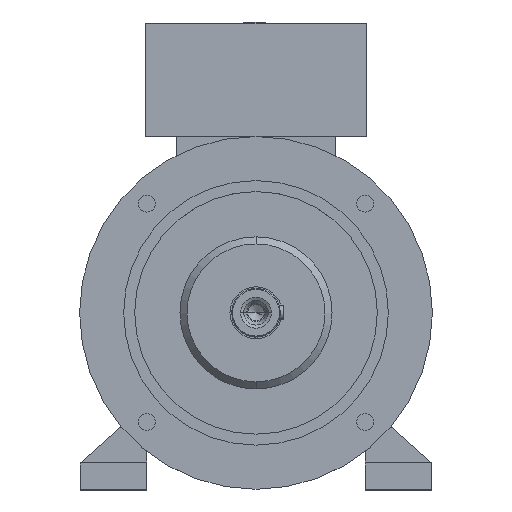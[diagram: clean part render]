
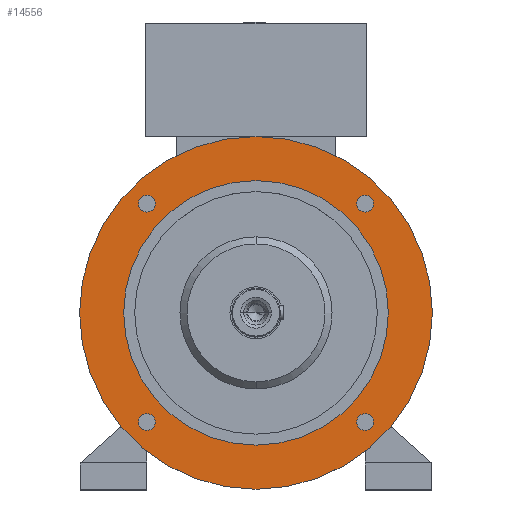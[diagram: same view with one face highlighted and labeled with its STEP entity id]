
A CAD part, top view. The second image highlights one B-rep face of the part: STEP entity #14556.
In plain terms, the highlighted planar face has unit normal (0, 0, 1).
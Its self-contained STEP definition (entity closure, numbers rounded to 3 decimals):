
#336 = DIRECTION ( 'NONE',  ( -1., 0., 0. ) ) ;
#720 = DIRECTION ( 'NONE',  ( 0., 0., -1. ) ) ;
#958 = CIRCLE ( 'NONE', #24208, 9.5 ) ;
#1006 = DIRECTION ( 'NONE',  ( -1., 0., 0. ) ) ;
#1097 = DIRECTION ( 'NONE',  ( 0., 0., -1. ) ) ;
#1434 = EDGE_CURVE ( 'NONE', #15455, #3084, #10281, .T. ) ;
#1455 = CARTESIAN_POINT ( 'NONE',  ( 133.244, 123.744, 285.5 ) ) ;
#1549 = DIRECTION ( 'NONE',  ( 1., 0., 0. ) ) ;
#2499 = EDGE_CURVE ( 'NONE', #3084, #15455, #8273, .T. ) ;
#3010 = CARTESIAN_POINT ( 'NONE',  ( 123.744, 123.744, 285.5 ) ) ;
#3084 = VERTEX_POINT ( 'NONE', #20287 ) ;
#3183 = EDGE_CURVE ( 'NONE', #4189, #18653, #20724, .T. ) ;
#3204 = CIRCLE ( 'NONE', #6338, 9.5 ) ;
#3250 = FACE_OUTER_BOUND ( 'NONE', #13264, .T. ) ;
#3396 = DIRECTION ( 'NONE',  ( 0., 0., -1. ) ) ;
#3454 = AXIS2_PLACEMENT_3D ( 'NONE', #7744, #25996, #26088 ) ;
#3564 = FACE_BOUND ( 'NONE', #20663, .T. ) ;
#3735 = EDGE_CURVE ( 'NONE', #9845, #18237, #958, .T. ) ;
#3979 = ORIENTED_EDGE ( 'NONE', *, *, #5904, .T. ) ;
#4189 = VERTEX_POINT ( 'NONE', #1455 ) ;
#4240 = ORIENTED_EDGE ( 'NONE', *, *, #19979, .T. ) ;
#4350 = CARTESIAN_POINT ( 'NONE',  ( -150., 0., 285.5 ) ) ;
#4654 = CIRCLE ( 'NONE', #25956, 150. ) ;
#4704 = DIRECTION ( 'NONE',  ( 1., 0., 0. ) ) ;
#4707 = DIRECTION ( 'NONE',  ( -1., 0., 0. ) ) ;
#4760 = DIRECTION ( 'NONE',  ( 1., 0., 0. ) ) ;
#5115 = DIRECTION ( 'NONE',  ( -1., 0., 0. ) ) ;
#5391 = ORIENTED_EDGE ( 'NONE', *, *, #6276, .T. ) ;
#5403 = ORIENTED_EDGE ( 'NONE', *, *, #14896, .T. ) ;
#5904 = EDGE_CURVE ( 'NONE', #20744, #16319, #4654, .T. ) ;
#6160 = CARTESIAN_POINT ( 'NONE',  ( -123.744, 123.744, 285.5 ) ) ;
#6276 = EDGE_CURVE ( 'NONE', #18653, #4189, #23207, .T. ) ;
#6338 = AXIS2_PLACEMENT_3D ( 'NONE', #20384, #18238, #16373 ) ;
#6404 = CARTESIAN_POINT ( 'NONE',  ( 114.244, -123.744, 285.5 ) ) ;
#6496 = CARTESIAN_POINT ( 'NONE',  ( 0., 0., 285.5 ) ) ;
#7278 = CIRCLE ( 'NONE', #14894, 9.5 ) ;
#7379 = CARTESIAN_POINT ( 'NONE',  ( 0., 0., 285.5 ) ) ;
#7744 = CARTESIAN_POINT ( 'NONE',  ( 0., 200., 285.5 ) ) ;
#7813 = ORIENTED_EDGE ( 'NONE', *, *, #3735, .T. ) ;
#7983 = AXIS2_PLACEMENT_3D ( 'NONE', #3010, #12987, #19224 ) ;
#7990 = FACE_BOUND ( 'NONE', #13140, .T. ) ;
#8273 = CIRCLE ( 'NONE', #17562, 200. ) ;
#8820 = CARTESIAN_POINT ( 'NONE',  ( 200., 0., 285.5 ) ) ;
#9009 = AXIS2_PLACEMENT_3D ( 'NONE', #25233, #13048, #14918 ) ;
#9041 = ORIENTED_EDGE ( 'NONE', *, *, #16050, .T. ) ;
#9072 = ORIENTED_EDGE ( 'NONE', *, *, #9926, .T. ) ;
#9357 = PLANE ( 'NONE',  #3454 ) ;
#9845 = VERTEX_POINT ( 'NONE', #26004 ) ;
#9926 = EDGE_CURVE ( 'NONE', #10684, #10480, #14466, .T. ) ;
#10065 = EDGE_LOOP ( 'NONE', ( #16254, #9041 ) ) ;
#10281 = CIRCLE ( 'NONE', #16500, 200. ) ;
#10480 = VERTEX_POINT ( 'NONE', #6404 ) ;
#10684 = VERTEX_POINT ( 'NONE', #22761 ) ;
#11132 = ORIENTED_EDGE ( 'NONE', *, *, #2499, .T. ) ;
#11179 = ORIENTED_EDGE ( 'NONE', *, *, #21756, .T. ) ;
#11184 = CARTESIAN_POINT ( 'NONE',  ( 150., 0., 285.5 ) ) ;
#11253 = ORIENTED_EDGE ( 'NONE', *, *, #1434, .T. ) ;
#11774 = DIRECTION ( 'NONE',  ( 0., 0., -1. ) ) ;
#12135 = CIRCLE ( 'NONE', #22715, 150. ) ;
#12987 = DIRECTION ( 'NONE',  ( 0., 0., -1. ) ) ;
#13048 = DIRECTION ( 'NONE',  ( 0., 0., -1. ) ) ;
#13060 = DIRECTION ( 'NONE',  ( 0., 0., -1. ) ) ;
#13140 = EDGE_LOOP ( 'NONE', ( #11179, #7813 ) ) ;
#13192 = CARTESIAN_POINT ( 'NONE',  ( 0., 0., 285.5 ) ) ;
#13264 = EDGE_LOOP ( 'NONE', ( #11132, #11253 ) ) ;
#14163 = CIRCLE ( 'NONE', #9009, 9.5 ) ;
#14380 = FACE_BOUND ( 'NONE', #19676, .T. ) ;
#14466 = CIRCLE ( 'NONE', #20096, 9.5 ) ;
#14556 = ADVANCED_FACE ( 'NONE', ( #3250, #3564, #25183, #14380, #7990, #22330 ), #9357, .T. ) ;
#14894 = AXIS2_PLACEMENT_3D ( 'NONE', #25809, #11774, #1549 ) ;
#14896 = EDGE_CURVE ( 'NONE', #16319, #20744, #12135, .T. ) ;
#14918 = DIRECTION ( 'NONE',  ( 1., 0., 0. ) ) ;
#15455 = VERTEX_POINT ( 'NONE', #8820 ) ;
#15496 = CARTESIAN_POINT ( 'NONE',  ( -123.744, 123.744, 285.5 ) ) ;
#16050 = EDGE_CURVE ( 'NONE', #17326, #22408, #7278, .T. ) ;
#16129 = DIRECTION ( 'NONE',  ( 0., 0., -1. ) ) ;
#16254 = ORIENTED_EDGE ( 'NONE', *, *, #18104, .T. ) ;
#16319 = VERTEX_POINT ( 'NONE', #11184 ) ;
#16373 = DIRECTION ( 'NONE',  ( 1., 0., 0. ) ) ;
#16500 = AXIS2_PLACEMENT_3D ( 'NONE', #6496, #23048, #336 ) ;
#17247 = CARTESIAN_POINT ( 'NONE',  ( 0., 0., 285.5 ) ) ;
#17326 = VERTEX_POINT ( 'NONE', #25633 ) ;
#17539 = DIRECTION ( 'NONE',  ( 1., 0., 0. ) ) ;
#17562 = AXIS2_PLACEMENT_3D ( 'NONE', #13192, #25208, #5115 ) ;
#17858 = ORIENTED_EDGE ( 'NONE', *, *, #3183, .T. ) ;
#18104 = EDGE_CURVE ( 'NONE', #22408, #17326, #14163, .T. ) ;
#18237 = VERTEX_POINT ( 'NONE', #25502 ) ;
#18238 = DIRECTION ( 'NONE',  ( 0., 0., -1. ) ) ;
#18653 = VERTEX_POINT ( 'NONE', #19252 ) ;
#18754 = CIRCLE ( 'NONE', #25122, 9.5 ) ;
#19224 = DIRECTION ( 'NONE',  ( 1., 0., 0. ) ) ;
#19252 = CARTESIAN_POINT ( 'NONE',  ( 114.244, 123.744, 285.5 ) ) ;
#19676 = EDGE_LOOP ( 'NONE', ( #17858, #5391 ) ) ;
#19680 = AXIS2_PLACEMENT_3D ( 'NONE', #20894, #13060, #4704 ) ;
#19978 = CARTESIAN_POINT ( 'NONE',  ( 123.744, -123.744, 285.5 ) ) ;
#19979 = EDGE_CURVE ( 'NONE', #10480, #10684, #3204, .T. ) ;
#20096 = AXIS2_PLACEMENT_3D ( 'NONE', #19978, #24847, #4760 ) ;
#20287 = CARTESIAN_POINT ( 'NONE',  ( -200., 0., 285.5 ) ) ;
#20384 = CARTESIAN_POINT ( 'NONE',  ( 123.744, -123.744, 285.5 ) ) ;
#20663 = EDGE_LOOP ( 'NONE', ( #3979, #5403 ) ) ;
#20724 = CIRCLE ( 'NONE', #7983, 9.5 ) ;
#20744 = VERTEX_POINT ( 'NONE', #4350 ) ;
#20894 = CARTESIAN_POINT ( 'NONE',  ( 123.744, 123.744, 285.5 ) ) ;
#21756 = EDGE_CURVE ( 'NONE', #18237, #9845, #18754, .T. ) ;
#21876 = EDGE_LOOP ( 'NONE', ( #9072, #4240 ) ) ;
#22330 = FACE_BOUND ( 'NONE', #10065, .T. ) ;
#22359 = DIRECTION ( 'NONE',  ( 1., 0., 0. ) ) ;
#22408 = VERTEX_POINT ( 'NONE', #24159 ) ;
#22715 = AXIS2_PLACEMENT_3D ( 'NONE', #17247, #720, #4707 ) ;
#22761 = CARTESIAN_POINT ( 'NONE',  ( 133.244, -123.744, 285.5 ) ) ;
#23048 = DIRECTION ( 'NONE',  ( 0., 0., 1. ) ) ;
#23207 = CIRCLE ( 'NONE', #19680, 9.5 ) ;
#24159 = CARTESIAN_POINT ( 'NONE',  ( -114.244, -123.744, 285.5 ) ) ;
#24208 = AXIS2_PLACEMENT_3D ( 'NONE', #6160, #16129, #22359 ) ;
#24847 = DIRECTION ( 'NONE',  ( 0., 0., -1. ) ) ;
#25122 = AXIS2_PLACEMENT_3D ( 'NONE', #15496, #3396, #17539 ) ;
#25183 = FACE_BOUND ( 'NONE', #21876, .T. ) ;
#25208 = DIRECTION ( 'NONE',  ( 0., 0., 1. ) ) ;
#25233 = CARTESIAN_POINT ( 'NONE',  ( -123.744, -123.744, 285.5 ) ) ;
#25502 = CARTESIAN_POINT ( 'NONE',  ( -114.244, 123.744, 285.5 ) ) ;
#25633 = CARTESIAN_POINT ( 'NONE',  ( -133.244, -123.744, 285.5 ) ) ;
#25809 = CARTESIAN_POINT ( 'NONE',  ( -123.744, -123.744, 285.5 ) ) ;
#25956 = AXIS2_PLACEMENT_3D ( 'NONE', #7379, #1097, #1006 ) ;
#25996 = DIRECTION ( 'NONE',  ( 0., 0., 1. ) ) ;
#26004 = CARTESIAN_POINT ( 'NONE',  ( -133.244, 123.744, 285.5 ) ) ;
#26088 = DIRECTION ( 'NONE',  ( 1., 0., 0. ) ) ;
